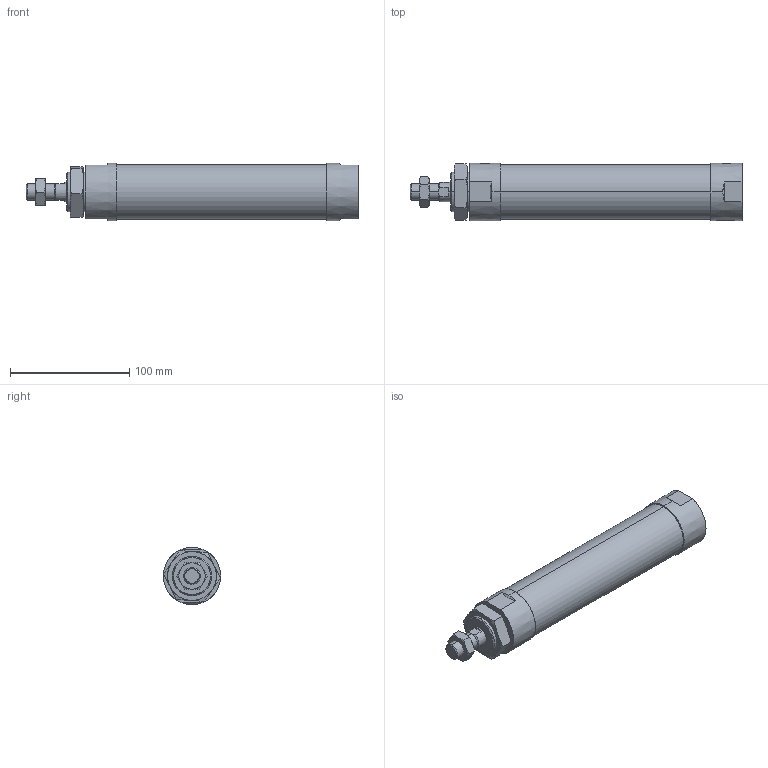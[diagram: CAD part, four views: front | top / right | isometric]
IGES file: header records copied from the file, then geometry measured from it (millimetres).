
Start section: SolidWorks IGES file using analytic representation for surfaces
Global section: file name: C:\Users\Toshiba\Desktop\JGND2-40-125-N.IGS; native system: SolidWorks 2014; preprocessor: SolidWorks 2014; author: Toshiba; date: 160804.111152; units: millimetre
Bounding box: 278 x 48 x 48 mm (x, y, z)
Surface area: 46903.6 mm2 (no closed solid volume)
Topology: 0 solids, 0 shells, 89 faces, 1702 edges, 1698 vertices
Faces by surface type: bspline 56, revolution 33
